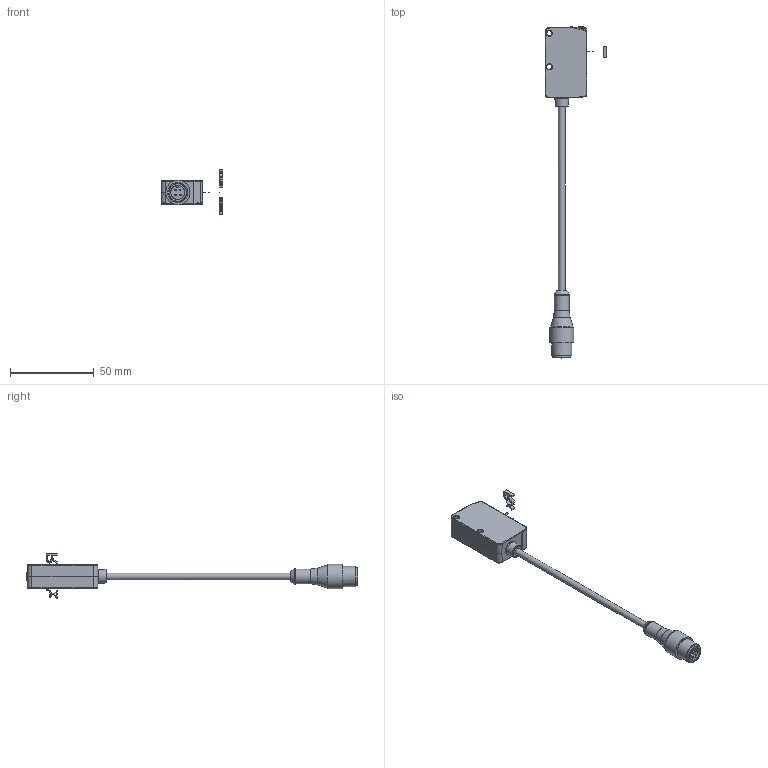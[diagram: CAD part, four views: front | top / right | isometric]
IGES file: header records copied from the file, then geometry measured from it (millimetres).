
Global section: file name: D:\igs\DSD-0194.igs; preprocessor: I-DEAS 3D IGES Translator 11; date: 20080908.123955; units: millimetre
Bounding box: 37 x 198.3 x 26.68 mm (x, y, z)
Surface area: 8794.9 mm2
Topology: 6 solids, 6 shells, 511 faces, 2555 edges, 2373 vertices
Faces by surface type: bspline 511
